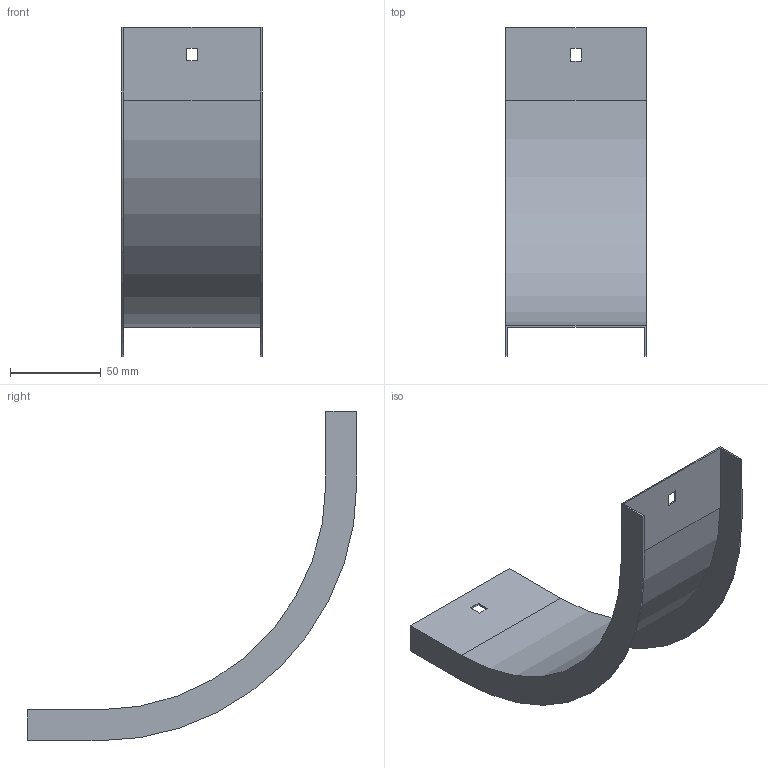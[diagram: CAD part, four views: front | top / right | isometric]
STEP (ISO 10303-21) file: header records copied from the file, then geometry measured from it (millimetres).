
FILE_DESCRIPTION (( 'STEP AP214' ), '1' );
FILE_NAME ('OS9_075.step', '2025-07-16T09:17:05', ( '' ), ( '' ), 'SwSTEP 2.0', 'SolidWorks 2023', '' );
FILE_SCHEMA (( 'AUTOMOTIVE_DESIGN' ));
Length unit declared in the file: millimetre
Products named in the file (1): OS9_075
Bounding box: 77 x 181 x 181 mm (x, y, z)
Volume: 30379.7 mm3; surface area: 61630.9 mm2
Topology: 1 solids, 1 shells, 26 faces, 72 edges, 48 vertices
Faces by surface type: plane 22, cylinder 4
Entity records: 855 total; most frequent: CARTESIAN_POINT 147, ORIENTED_EDGE 144, DIRECTION 134, EDGE_CURVE 72, LINE 64, VECTOR 64, VERTEX_POINT 48, AXIS2_PLACEMENT_3D 35
